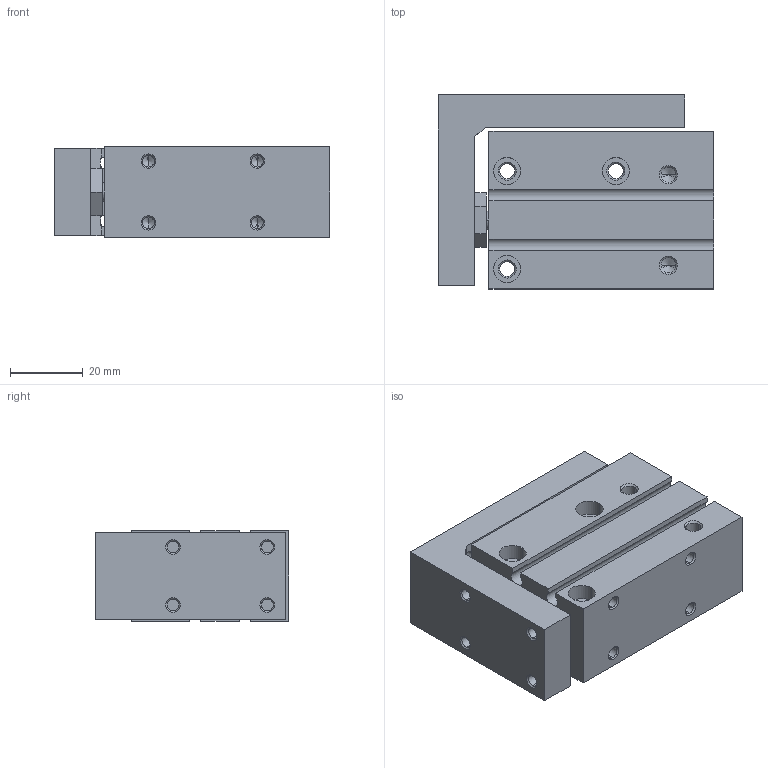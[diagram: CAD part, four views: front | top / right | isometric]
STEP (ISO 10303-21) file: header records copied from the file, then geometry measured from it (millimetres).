
FILE_DESCRIPTION (( 'STEP AP203' ), '1' );
FILE_NAME ('CXH16-20.STEP', '2020-04-16T18:11:00', ( '' ), ( '' ), 'SwSTEP 2.0', 'SolidWorks 2019', '' );
FILE_SCHEMA (( 'CONFIG_CONTROL_DESIGN' ));
Length unit declared in the file: millimetre
Products named in the file (1): CXH16-20
Bounding box: 76 x 53.5 x 25 mm (x, y, z)
Volume: 81918.7 mm3; surface area: 27313.7 mm2
Topology: 2 solids, 2 shells, 208 faces, 495 edges, 286 vertices
Faces by surface type: cone 88, cylinder 76, plane 44
Entity records: 5928 total; most frequent: DIRECTION 1093, CARTESIAN_POINT 1004, ORIENTED_EDGE 934, EDGE_CURVE 467, AXIS2_PLACEMENT_3D 421, VERTEX_POINT 286, EDGE_LOOP 253, VECTOR 251
